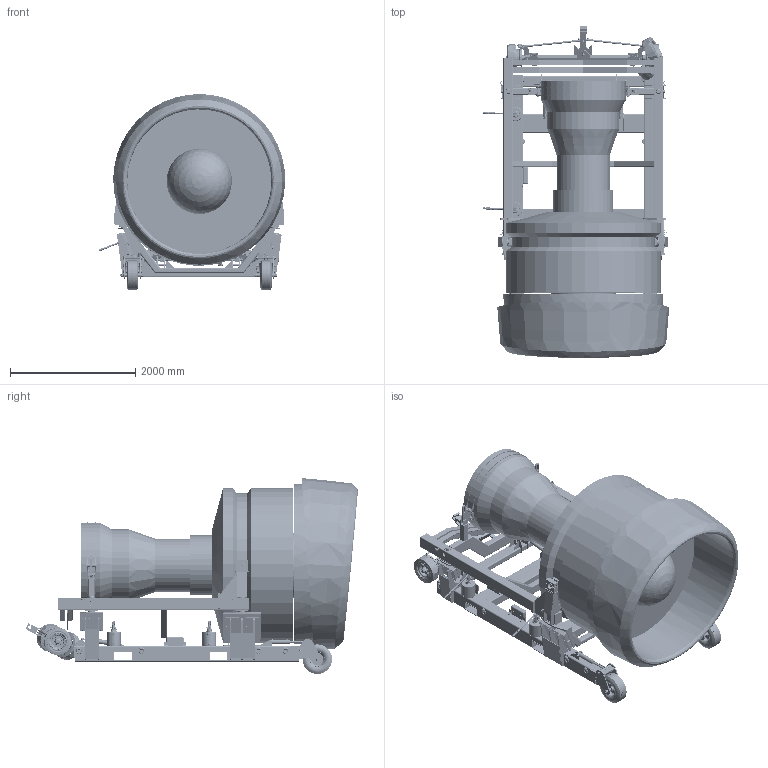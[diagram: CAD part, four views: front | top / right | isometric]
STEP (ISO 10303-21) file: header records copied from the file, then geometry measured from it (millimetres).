
FILE_DESCRIPTION(('CATIA V5 STEP Exchange'),'2;1');
FILE_NAME('F:\D71STA00013G01_A.stp','2014-02-21T10:11:37+00:00',('none'),('none'),'CATIA Version 5 Release 19 SP 9 (IN-10)','CATIA V5 STEP AP203','none');
FILE_SCHEMA(('CONFIG_CONTROL_DESIGN'));
Products named in the file (23): D71STA00013G01_A; D71CRA00026G01_A; DASSFER0036_A; DASSBRO0066_A; DASSBRO0074_A; DASSBRO0075_A; D71TRO00021G01_A; DASSROU0035_A; DASSTRA0014_A; SHOCK ABSORBEURS; VIS+RONDELLE; ENSEMBLE ESSIEU; Assem1; DASSHYD0132_A; DASSBRO0067_A; DASSBRO0068_A; DASSBRO0069_A; DASSBRO0070_A; DASSBRO0071_A; DASSBRO0072_A; SHOCK ABSORBEURS_1; VIS+RONDELLE_1; PW4000-94+INLET
Assembly tree (230 placements, depth 6):
  D71STA00013G01_A
    D71CRA00026G01_A
      #66
      DASSFER0036_A  x2
        #28238
        #29085
        #31475
        #32146
        #32429
        #32977
        #35425
        #35994
      #45903  x2
      DASSBRO0066_A  x2
        #47045
        #47948
        #48652
        #48675
      DASSBRO0074_A  x2
        #48749
        #47948
      DASSBRO0075_A  x2
        #49602
        #47948
    D71TRO00021G01_A
      #50468
      DASSROU0035_A  x2
        #126960
        #131207
        #131805
        #132156
        #135055
        #135309
      #136025
      #138290
      DASSTRA0014_A
        #140563
        SHOCK ABSORBEURS  x8
          #148861
          VIS+RONDELLE
            #150662
            #151256
          #151553
      ENSEMBLE ESSIEU
        Assem1
          #152679
          #153198
          #153717
          #153882
          #154047
          #154476
          #154905
          #155316
          #156013
          #157194
          #157217
          #158009
          #158122
          #158235
          #158595
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Bounding box: 2976.72 x 5300.15 x 3126.46 mm (x, y, z)
Volume: 9490918535.3 mm3; surface area: 115519070.8 mm2
Topology: 577 solids, 1797 shells, 14774 faces, 42459 edges, 29999 vertices
Faces by surface type: plane 6241, cylinder 4488, cone 2032, revolution 1002, torus 712, bspline 181, sphere 98, extrusion 20
Entity records: 302561 total; most frequent: CARTESIAN_POINT 87257, ORIENTED_EDGE 43075, DIRECTION 35117, EDGE_CURVE 25402, VERTEX_POINT 18745, AXIS2_PLACEMENT_3D 14503, VECTOR 14177, LINE 14167
